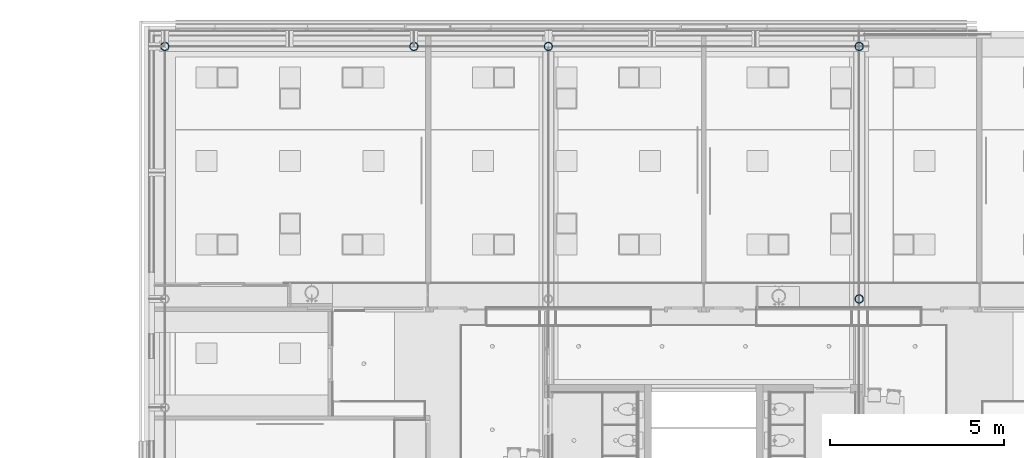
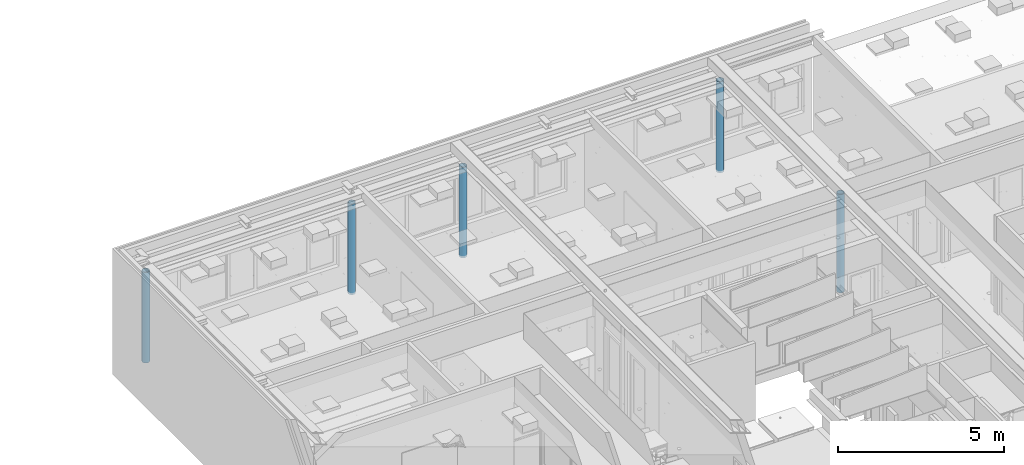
# One storey, part 13 of 260: 5 columns.
"""IFC2X3 building model written with IfcOpenShell, lengths in millimetres."""

from ifc_helpers import new_model, entity, si_unit, converted_unit, derived_unit, money_unit, direction, frame, origin_with_axes, place, context, subcontext, project, spatial, faceted_brep, material, type_object, element, save


model = new_model("IFC2X3")

# Units and contexts
model_context = context("Model", 3, precision=0.01, world=origin_with_axes(), true_north=direction((0.0, 1.0)))
plan_context = context("Plan", 3, precision=0.01, world=origin_with_axes(), true_north=direction((0.0, 1.0)))
body_context = subcontext(model_context, "Body", "Model", "MODEL_VIEW")
ifc_project = project(units=[si_unit("LENGTHUNIT", "METRE", prefix="MILLI"), si_unit("AREAUNIT", "SQUARE_METRE"), si_unit("VOLUMEUNIT", "CUBIC_METRE"), converted_unit("PLANEANGLEUNIT", "DEGREE", entity("IfcPlaneAngleMeasure", 0.0174532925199), si_unit("PLANEANGLEUNIT", "RADIAN"), dimensions=[0, 0, 0, 0, 0, 0, 0]), money_unit("EUR"), converted_unit("TIMEUNIT", "Year", entity("IfcTimeMeasure", 31556926.0), si_unit("TIMEUNIT", "SECOND"), dimensions=[0, 0, 1, 0, 0, 0, 0]), si_unit("MASSUNIT", "GRAM", prefix="KILO"), si_unit("THERMODYNAMICTEMPERATUREUNIT", "DEGREE_CELSIUS"), si_unit("LUMINOUSINTENSITYUNIT", "LUMEN"), si_unit("ENERGYUNIT", "JOULE", prefix="MEGA"), derived_unit("THERMALCONDUCTANCEUNIT", [(si_unit("POWERUNIT", "WATT"), 1), (si_unit("LENGTHUNIT", "METRE"), -1), (si_unit("THERMODYNAMICTEMPERATUREUNIT", "KELVIN"), -1)]), derived_unit("SPECIFICHEATCAPACITYUNIT", [(si_unit("ENERGYUNIT", "JOULE"), 1), (si_unit("MASSUNIT", "GRAM", prefix="KILO"), -1), (si_unit("THERMODYNAMICTEMPERATUREUNIT", "KELVIN"), -1)]), derived_unit("MASSDENSITYUNIT", [(si_unit("MASSUNIT", "GRAM", prefix="KILO"), 1), (si_unit("VOLUMEUNIT", "CUBIC_METRE"), -1)])], contexts=[model_context, plan_context])

# Site, building, storey
site_placement = place(None, origin_with_axes())
site = spatial("IfcSite", under=ifc_project, at=site_placement, Name="Site", CompositionType="ELEMENT")
building_placement = place(site_placement, origin_with_axes())
building = spatial("IfcBuilding", under=site, at=building_placement, Name="Naam gebouw", CompositionType="ELEMENT")
storey_placement = place(building_placement, frame((0.0, 0.0, 3960.0), z_axis=(0.0, 0.0, 1.0), x_axis=(1.0, 0.0, 0.0)))
storey = spatial("IfcBuildingStorey", under=building, at=storey_placement, Name="verdieping", CompositionType="ELEMENT", Elevation=3960.0)

# Columns
ifc_material = material(Name="Metaal - Staal C wit")
column_type = type_object("IfcColumnType", Name="Lucht D245", PredefinedType="COLUMN")
column_1_placement = place(storey_placement, frame((44545.0, 46586.9999775, -70.0), z_axis=(0.0, 0.0, 1.0), x_axis=(1.0, 0.0, 0.0)))
element("IfcColumn", 1, at=column_1_placement, inside=storey, type_object=column_type, material=ifc_material, Name="28_kolom ø 273mm", ObjectType="COLUMN", context=body_context, shape_type="Brep", body=[
    faceted_brep([(-122.25, 0.0, 0.0), (-119.184937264, -27.2031841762, 0.0), (-119.184937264, -27.2031841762, 3350.0), (-122.25, 0.0, 3350.0), (-119.184937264, 27.2031841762, 0.0), (-110.143444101, 53.0422871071, 0.0), (-95.5788987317, 76.2216282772, 0.0), (-76.2216282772, 95.5788987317, 0.0), (-53.0422871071, 110.143444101, 0.0), (-27.2031841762, 119.184937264, 0.0), (0.0, 122.25, 0.0), (27.2031841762, 119.184937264, 0.0), (53.0422871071, 110.143444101, 0.0), (76.2216282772, 95.5788987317, 0.0), (95.5788987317, 76.2216282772, 0.0), (110.143444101, 53.0422871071, 0.0), (119.184937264, 27.2031841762, 0.0), (122.25, 0.0, 0.0), (119.184937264, -27.2031841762, 0.0), (110.143444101, -53.0422871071, 0.0), (95.5788987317, -76.2216282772, 0.0), (76.2216282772, -95.5788987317, 0.0), (53.0422871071, -110.143444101, 0.0), (27.2031841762, -119.184937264, 0.0), (0.0, -122.25, 0.0), (-27.2031841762, -119.184937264, 0.0), (-53.0422871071, -110.143444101, 0.0), (-76.2216282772, -95.5788987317, 0.0), (-95.5788987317, -76.2216282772, 0.0), (-110.143444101, -53.0422871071, 0.0), (-106.25, 0.0, 0.0), (-102.629619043, -27.4995235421, 0.0), (-92.0151991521, -53.125, 0.0), (-75.1300955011, -75.1300955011, 0.0), (-53.125, -92.0151991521, 0.0), (-27.4995235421, -102.629619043, 0.0), (0.0, -106.25, 0.0), (27.4995235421, -102.629619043, 0.0), (53.125, -92.0151991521, 0.0), (75.1300955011, -75.1300955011, 0.0), (92.0151991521, -53.125, 0.0), (102.629619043, -27.4995235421, 0.0), (106.25, 0.0, 0.0), (102.629619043, 27.4995235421, 0.0), (92.0151991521, 53.125, 0.0), (75.1300955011, 75.1300955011, 0.0), (53.125, 92.0151991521, 0.0), (27.4995235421, 102.629619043, 0.0), (0.0, 106.25, 0.0), (-27.4995235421, 102.629619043, 0.0), (-53.125, 92.0151991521, 0.0), (-75.1300955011, 75.1300955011, 0.0), (-92.0151991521, 53.125, 0.0), (-102.629619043, 27.4995235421, 0.0), (-110.143444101, -53.0422871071, 3350.0), (-95.5788987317, -76.2216282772, 3350.0), (-76.2216282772, -95.5788987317, 3350.0), (-53.0422871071, -110.143444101, 3350.0), (-27.2031841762, -119.184937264, 3350.0), (0.0, -122.25, 3350.0), (27.2031841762, -119.184937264, 3350.0), (53.0422871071, -110.143444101, 3350.0), (76.2216282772, -95.5788987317, 3350.0), (95.5788987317, -76.2216282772, 3350.0), (110.143444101, -53.0422871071, 3350.0), (119.184937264, -27.2031841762, 3350.0), (122.25, 0.0, 3350.0), (119.184937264, 27.2031841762, 3350.0), (110.143444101, 53.0422871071, 3350.0), (95.5788987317, 76.2216282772, 3350.0), (76.2216282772, 95.5788987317, 3350.0), (53.0422871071, 110.143444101, 3350.0), (27.2031841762, 119.184937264, 3350.0), (0.0, 122.25, 3350.0), (-27.2031841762, 119.184937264, 3350.0), (-53.0422871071, 110.143444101, 3350.0), (-76.2216282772, 95.5788987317, 3350.0), (-95.5788987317, 76.2216282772, 3350.0), (-110.143444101, 53.0422871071, 3350.0), (-119.184937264, 27.2031841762, 3350.0), (-106.25, 0.0, 3350.0), (-102.629619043, 27.4995235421, 3350.0), (-92.0151991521, 53.125, 3350.0), (-75.1300955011, 75.1300955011, 3350.0), (-53.125, 92.0151991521, 3350.0), (-27.4995235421, 102.629619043, 3350.0), (0.0, 106.25, 3350.0), (27.4995235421, 102.629619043, 3350.0), (53.125, 92.0151991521, 3350.0), (75.1300955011, 75.1300955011, 3350.0), (92.0151991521, 53.125, 3350.0), (102.629619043, 27.4995235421, 3350.0), (106.25, 0.0, 3350.0), (102.629619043, -27.4995235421, 3350.0), (92.0151991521, -53.125, 3350.0), (75.1300955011, -75.1300955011, 3350.0), (53.125, -92.0151991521, 3350.0), (27.4995235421, -102.629619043, 3350.0), (0.0, -106.25, 3350.0), (-27.4995235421, -102.629619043, 3350.0), (-53.125, -92.0151991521, 3350.0), (-75.1300955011, -75.1300955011, 3350.0), (-92.0151991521, -53.125, 3350.0), (-102.629619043, -27.4995235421, 3350.0)], [[[0, 1, 2, 3]], [[0, 4, 5, 6, 7, 8, 9, 10, 11, 12, 13, 14, 15, 16, 17, 18, 19, 20, 21, 22, 23, 24, 25, 26, 27, 28, 29, 1], [30, 31, 32, 33, 34, 35, 36, 37, 38, 39, 40, 41, 42, 43, 44, 45, 46, 47, 48, 49, 50, 51, 52, 53]], [[1, 29, 54, 2]], [[3, 2, 54, 55, 56, 57, 58, 59, 60, 61, 62, 63, 64, 65, 66, 67, 68, 69, 70, 71, 72, 73, 74, 75, 76, 77, 78, 79], [80, 81, 82, 83, 84, 85, 86, 87, 88, 89, 90, 91, 92, 93, 94, 95, 96, 97, 98, 99, 100, 101, 102, 103]], [[4, 0, 3, 79]], [[5, 4, 79, 78]], [[6, 5, 78, 77]], [[7, 6, 77, 76]], [[8, 7, 76, 75]], [[9, 8, 75, 74]], [[10, 9, 74, 73]], [[11, 10, 73, 72]], [[12, 11, 72, 71]], [[13, 12, 71, 70]], [[14, 13, 70, 69]], [[15, 14, 69, 68]], [[16, 15, 68, 67]], [[17, 16, 67, 66]], [[18, 17, 66, 65]], [[19, 18, 65, 64]], [[20, 19, 64, 63]], [[21, 20, 63, 62]], [[22, 21, 62, 61]], [[23, 22, 61, 60]], [[24, 23, 60, 59]], [[25, 24, 59, 58]], [[26, 25, 58, 57]], [[27, 26, 57, 56]], [[28, 27, 56, 55]], [[29, 28, 55, 54]], [[31, 30, 80, 103]], [[32, 31, 103, 102]], [[33, 32, 102, 101]], [[34, 33, 101, 100]], [[35, 34, 100, 99]], [[36, 35, 99, 98]], [[37, 36, 98, 97]], [[38, 37, 97, 96]], [[39, 38, 96, 95]], [[40, 39, 95, 94]], [[41, 40, 94, 93]], [[42, 41, 93, 92]], [[43, 42, 92, 91]], [[44, 43, 91, 90]], [[45, 44, 90, 89]], [[46, 45, 89, 88]], [[47, 46, 88, 87]], [[48, 47, 87, 86]], [[49, 48, 86, 85]], [[50, 49, 85, 84]], [[51, 50, 84, 83]], [[52, 51, 83, 82]], [[53, 52, 82, 81]], [[30, 53, 81, 80]]]),
])
column_2_placement = place(storey_placement, frame((44545.0, 39325.0, -80.0), z_axis=(0.0, 0.0, 1.0), x_axis=(1.0, 0.0, 0.0)))
element("IfcColumn", 2, at=column_2_placement, inside=storey, type_object=column_type, material=ifc_material, Name="28_kolom ø 273mm", ObjectType="COLUMN", context=body_context, shape_type="Brep", body=[
    faceted_brep([(119.184937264, 27.2031841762, 0.0), (110.143444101, 53.0422871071, 0.0), (110.143444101, 53.0422871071, 3620.0), (119.184937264, 27.2031841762, 3620.0), (122.25, 0.0, 0.0), (119.184937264, -27.2031841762, 0.0), (110.143444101, -53.0422871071, 0.0), (95.5788987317, -76.2216282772, 0.0), (76.2216282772, -95.5788987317, 0.0), (53.0422871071, -110.143444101, 0.0), (27.2031841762, -119.184937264, 0.0), (0.0, -122.25, 0.0), (-27.2031841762, -119.184937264, 0.0), (-53.0422871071, -110.143444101, 0.0), (-76.2216282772, -95.5788987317, 0.0), (-95.5788987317, -76.2216282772, 0.0), (-110.143444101, -53.0422871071, 0.0), (-119.184937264, -27.2031841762, 0.0), (-122.25, 0.0, 0.0), (-119.184937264, 27.2031841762, 0.0), (-110.143444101, 53.0422871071, 0.0), (-95.5788987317, 76.2216282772, 0.0), (-76.2216282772, 95.5788987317, 0.0), (-53.0422871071, 110.143444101, 0.0), (-27.2031841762, 119.184937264, 0.0), (0.0, 122.25, 0.0), (27.2031841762, 119.184937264, 0.0), (53.0422871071, 110.143444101, 0.0), (76.2216282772, 95.5788987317, 0.0), (95.5788987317, 76.2216282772, 0.0), (102.629619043, -27.4995235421, 0.0), (106.25, 0.0, 0.0), (102.629619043, 27.4995235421, 0.0), (92.0151991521, 53.125, 0.0), (75.1300955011, 75.1300955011, 0.0), (53.125, 92.0151991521, 0.0), (27.4995235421, 102.629619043, 0.0), (0.0, 106.25, 0.0), (-27.4995235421, 102.629619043, 0.0), (-53.125, 92.0151991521, 0.0), (-75.1300955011, 75.1300955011, 0.0), (-92.0151991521, 53.125, 0.0), (-102.629619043, 27.4995235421, 0.0), (-106.25, 0.0, 0.0), (-102.629619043, -27.4995235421, 0.0), (-92.0151991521, -53.125, 0.0), (-75.1300955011, -75.1300955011, 0.0), (-53.125, -92.0151991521, 0.0), (-27.4995235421, -102.629619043, 0.0), (0.0, -106.25, 0.0), (27.4995235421, -102.629619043, 0.0), (53.125, -92.0151991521, 0.0), (75.1300955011, -75.1300955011, 0.0), (92.0151991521, -53.125, 0.0), (95.5788987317, 76.2216282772, 3620.0), (76.2216282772, 95.5788987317, 3620.0), (53.0422871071, 110.143444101, 3620.0), (27.2031841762, 119.184937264, 3620.0), (0.0, 122.25, 3620.0), (-27.2031841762, 119.184937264, 3620.0), (-53.0422871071, 110.143444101, 3620.0), (-76.2216282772, 95.5788987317, 3620.0), (-95.5788987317, 76.2216282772, 3620.0), (-110.143444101, 53.0422871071, 3620.0), (-119.184937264, 27.2031841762, 3620.0), (-122.25, 0.0, 3620.0), (-119.184937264, -27.2031841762, 3620.0), (-110.143444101, -53.0422871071, 3620.0), (-95.5788987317, -76.2216282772, 3620.0), (-76.2216282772, -95.5788987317, 3620.0), (-53.0422871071, -110.143444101, 3620.0), (-27.2031841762, -119.184937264, 3620.0), (0.0, -122.25, 3620.0), (27.2031841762, -119.184937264, 3620.0), (53.0422871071, -110.143444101, 3620.0), (76.2216282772, -95.5788987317, 3620.0), (95.5788987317, -76.2216282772, 3620.0), (110.143444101, -53.0422871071, 3620.0), (119.184937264, -27.2031841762, 3620.0), (122.25, 0.0, 3620.0), (102.629619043, -27.4995235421, 3620.0), (92.0151991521, -53.125, 3620.0), (75.1300955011, -75.1300955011, 3620.0), (53.125, -92.0151991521, 3620.0), (27.4995235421, -102.629619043, 3620.0), (0.0, -106.25, 3620.0), (-27.4995235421, -102.629619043, 3620.0), (-53.125, -92.0151991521, 3620.0), (-75.1300955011, -75.1300955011, 3620.0), (-92.0151991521, -53.125, 3620.0), (-102.629619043, -27.4995235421, 3620.0), (-106.25, 0.0, 3620.0), (-102.629619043, 27.4995235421, 3620.0), (-92.0151991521, 53.125, 3620.0), (-75.1300955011, 75.1300955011, 3620.0), (-53.125, 92.0151991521, 3620.0), (-27.4995235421, 102.629619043, 3620.0), (0.0, 106.25, 3620.0), (27.4995235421, 102.629619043, 3620.0), (53.125, 92.0151991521, 3620.0), (75.1300955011, 75.1300955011, 3620.0), (92.0151991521, 53.125, 3620.0), (102.629619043, 27.4995235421, 3620.0), (106.25, 0.0, 3620.0)], [[[0, 1, 2, 3]], [[0, 4, 5, 6, 7, 8, 9, 10, 11, 12, 13, 14, 15, 16, 17, 18, 19, 20, 21, 22, 23, 24, 25, 26, 27, 28, 29, 1], [30, 31, 32, 33, 34, 35, 36, 37, 38, 39, 40, 41, 42, 43, 44, 45, 46, 47, 48, 49, 50, 51, 52, 53]], [[1, 29, 54, 2]], [[3, 2, 54, 55, 56, 57, 58, 59, 60, 61, 62, 63, 64, 65, 66, 67, 68, 69, 70, 71, 72, 73, 74, 75, 76, 77, 78, 79], [80, 81, 82, 83, 84, 85, 86, 87, 88, 89, 90, 91, 92, 93, 94, 95, 96, 97, 98, 99, 100, 101, 102, 103]], [[4, 0, 3, 79]], [[5, 4, 79, 78]], [[6, 5, 78, 77]], [[7, 6, 77, 76]], [[8, 7, 76, 75]], [[9, 8, 75, 74]], [[10, 9, 74, 73]], [[11, 10, 73, 72]], [[12, 11, 72, 71]], [[13, 12, 71, 70]], [[14, 13, 70, 69]], [[15, 14, 69, 68]], [[16, 15, 68, 67]], [[17, 16, 67, 66]], [[18, 17, 66, 65]], [[19, 18, 65, 64]], [[20, 19, 64, 63]], [[21, 20, 63, 62]], [[22, 21, 62, 61]], [[23, 22, 61, 60]], [[24, 23, 60, 59]], [[25, 24, 59, 58]], [[26, 25, 58, 57]], [[27, 26, 57, 56]], [[28, 27, 56, 55]], [[29, 28, 55, 54]], [[31, 30, 80, 103]], [[32, 31, 103, 102]], [[33, 32, 102, 101]], [[34, 33, 101, 100]], [[35, 34, 100, 99]], [[36, 35, 99, 98]], [[37, 36, 98, 97]], [[38, 37, 97, 96]], [[39, 38, 96, 95]], [[40, 39, 95, 94]], [[41, 40, 94, 93]], [[42, 41, 93, 92]], [[43, 42, 92, 91]], [[44, 43, 91, 90]], [[45, 44, 90, 89]], [[46, 45, 89, 88]], [[47, 46, 88, 87]], [[48, 47, 87, 86]], [[49, 48, 86, 85]], [[50, 49, 85, 84]], [[51, 50, 84, 83]], [[52, 51, 83, 82]], [[53, 52, 82, 81]], [[30, 53, 81, 80]]]),
])
column_3_placement = place(storey_placement, frame((24575.0, 46586.9999775, -70.0), z_axis=(0.0, 0.0, 1.0), x_axis=(1.0, 0.0, 0.0)))
element("IfcColumn", 3, at=column_3_placement, inside=storey, type_object=column_type, material=ifc_material, Name="28_kolom ø 273mm", ObjectType="COLUMN", context=body_context, shape_type="Brep", body=[
    faceted_brep([(-122.25, 0.0, 0.0), (-119.184937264, -27.2031841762, 0.0), (-119.184937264, -27.2031841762, 3330.0), (-122.25, 0.0, 3330.0), (-119.184937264, 27.2031841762, 0.0), (-110.143444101, 53.0422871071, 0.0), (-95.5788987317, 76.2216282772, 0.0), (-76.2216282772, 95.5788987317, 0.0), (-53.0422871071, 110.143444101, 0.0), (-27.2031841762, 119.184937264, 0.0), (0.0, 122.25, 0.0), (27.2031841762, 119.184937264, 0.0), (53.0422871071, 110.143444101, 0.0), (76.2216282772, 95.5788987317, 0.0), (95.5788987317, 76.2216282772, 0.0), (110.143444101, 53.0422871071, 0.0), (119.184937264, 27.2031841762, 0.0), (122.25, 0.0, 0.0), (119.184937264, -27.2031841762, 0.0), (110.143444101, -53.0422871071, 0.0), (95.5788987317, -76.2216282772, 0.0), (76.2216282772, -95.5788987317, 0.0), (53.0422871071, -110.143444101, 0.0), (27.2031841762, -119.184937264, 0.0), (0.0, -122.25, 0.0), (-27.2031841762, -119.184937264, 0.0), (-53.0422871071, -110.143444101, 0.0), (-76.2216282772, -95.5788987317, 0.0), (-95.5788987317, -76.2216282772, 0.0), (-110.143444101, -53.0422871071, 0.0), (-106.25, 0.0, 0.0), (-102.629619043, -27.4995235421, 0.0), (-92.0151991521, -53.125, 0.0), (-75.1300955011, -75.1300955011, 0.0), (-53.125, -92.0151991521, 0.0), (-27.4995235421, -102.629619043, 0.0), (0.0, -106.25, 0.0), (27.4995235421, -102.629619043, 0.0), (53.125, -92.0151991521, 0.0), (75.1300955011, -75.1300955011, 0.0), (92.0151991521, -53.125, 0.0), (102.629619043, -27.4995235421, 0.0), (106.25, 0.0, 0.0), (102.629619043, 27.4995235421, 0.0), (92.0151991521, 53.125, 0.0), (75.1300955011, 75.1300955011, 0.0), (53.125, 92.0151991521, 0.0), (27.4995235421, 102.629619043, 0.0), (0.0, 106.25, 0.0), (-27.4995235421, 102.629619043, 0.0), (-53.125, 92.0151991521, 0.0), (-75.1300955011, 75.1300955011, 0.0), (-92.0151991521, 53.125, 0.0), (-102.629619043, 27.4995235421, 0.0), (-110.143444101, -53.0422871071, 3330.0), (-95.5788987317, -76.2216282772, 3330.0), (-76.2216282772, -95.5788987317, 3330.0), (-53.0422871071, -110.143444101, 3330.0), (-27.2031841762, -119.184937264, 3330.0), (0.0, -122.25, 3330.0), (27.2031841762, -119.184937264, 3330.0), (53.0422871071, -110.143444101, 3330.0), (76.2216282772, -95.5788987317, 3330.0), (95.5788987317, -76.2216282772, 3330.0), (110.143444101, -53.0422871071, 3330.0), (119.184937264, -27.2031841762, 3330.0), (122.25, 0.0, 3330.0), (119.184937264, 27.2031841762, 3330.0), (110.143444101, 53.0422871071, 3330.0), (95.5788987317, 76.2216282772, 3330.0), (76.2216282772, 95.5788987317, 3330.0), (53.0422871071, 110.143444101, 3330.0), (27.2031841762, 119.184937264, 3330.0), (0.0, 122.25, 3330.0), (-27.2031841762, 119.184937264, 3330.0), (-53.0422871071, 110.143444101, 3330.0), (-76.2216282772, 95.5788987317, 3330.0), (-95.5788987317, 76.2216282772, 3330.0), (-110.143444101, 53.0422871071, 3330.0), (-119.184937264, 27.2031841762, 3330.0), (-106.25, 0.0, 3330.0), (-102.629619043, 27.4995235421, 3330.0), (-92.0151991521, 53.125, 3330.0), (-75.1300955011, 75.1300955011, 3330.0), (-53.125, 92.0151991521, 3330.0), (-27.4995235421, 102.629619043, 3330.0), (0.0, 106.25, 3330.0), (27.4995235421, 102.629619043, 3330.0), (53.125, 92.0151991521, 3330.0), (75.1300955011, 75.1300955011, 3330.0), (92.0151991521, 53.125, 3330.0), (102.629619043, 27.4995235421, 3330.0), (106.25, 0.0, 3330.0), (102.629619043, -27.4995235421, 3330.0), (92.0151991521, -53.125, 3330.0), (75.1300955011, -75.1300955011, 3330.0), (53.125, -92.0151991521, 3330.0), (27.4995235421, -102.629619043, 3330.0), (0.0, -106.25, 3330.0), (-27.4995235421, -102.629619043, 3330.0), (-53.125, -92.0151991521, 3330.0), (-75.1300955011, -75.1300955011, 3330.0), (-92.0151991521, -53.125, 3330.0), (-102.629619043, -27.4995235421, 3330.0)], [[[0, 1, 2, 3]], [[0, 4, 5, 6, 7, 8, 9, 10, 11, 12, 13, 14, 15, 16, 17, 18, 19, 20, 21, 22, 23, 24, 25, 26, 27, 28, 29, 1], [30, 31, 32, 33, 34, 35, 36, 37, 38, 39, 40, 41, 42, 43, 44, 45, 46, 47, 48, 49, 50, 51, 52, 53]], [[1, 29, 54, 2]], [[3, 2, 54, 55, 56, 57, 58, 59, 60, 61, 62, 63, 64, 65, 66, 67, 68, 69, 70, 71, 72, 73, 74, 75, 76, 77, 78, 79], [80, 81, 82, 83, 84, 85, 86, 87, 88, 89, 90, 91, 92, 93, 94, 95, 96, 97, 98, 99, 100, 101, 102, 103]], [[4, 0, 3, 79]], [[5, 4, 79, 78]], [[6, 5, 78, 77]], [[7, 6, 77, 76]], [[8, 7, 76, 75]], [[9, 8, 75, 74]], [[10, 9, 74, 73]], [[11, 10, 73, 72]], [[12, 11, 72, 71]], [[13, 12, 71, 70]], [[14, 13, 70, 69]], [[15, 14, 69, 68]], [[16, 15, 68, 67]], [[17, 16, 67, 66]], [[18, 17, 66, 65]], [[19, 18, 65, 64]], [[20, 19, 64, 63]], [[21, 20, 63, 62]], [[22, 21, 62, 61]], [[23, 22, 61, 60]], [[24, 23, 60, 59]], [[25, 24, 59, 58]], [[26, 25, 58, 57]], [[27, 26, 57, 56]], [[28, 27, 56, 55]], [[29, 28, 55, 54]], [[31, 30, 80, 103]], [[32, 31, 103, 102]], [[33, 32, 102, 101]], [[34, 33, 101, 100]], [[35, 34, 100, 99]], [[36, 35, 99, 98]], [[37, 36, 98, 97]], [[38, 37, 97, 96]], [[39, 38, 96, 95]], [[40, 39, 95, 94]], [[41, 40, 94, 93]], [[42, 41, 93, 92]], [[43, 42, 92, 91]], [[44, 43, 91, 90]], [[45, 44, 90, 89]], [[46, 45, 89, 88]], [[47, 46, 88, 87]], [[48, 47, 87, 86]], [[49, 48, 86, 85]], [[50, 49, 85, 84]], [[51, 50, 84, 83]], [[52, 51, 83, 82]], [[53, 52, 82, 81]], [[30, 53, 81, 80]]]),
])
column_4_placement = place(storey_placement, frame((31737.5, 46586.9999775, -70.0), z_axis=(0.0, 0.0, 1.0), x_axis=(1.0, 0.0, 0.0)))
element("IfcColumn", 4, at=column_4_placement, inside=storey, type_object=column_type, material=ifc_material, Name="28_kolom ø 273mm", ObjectType="COLUMN", context=body_context, shape_type="Brep", body=[
    faceted_brep([(-122.25, 0.0, 0.0), (-119.184937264, -27.2031841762, 0.0), (-119.184937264, -27.2031841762, 3330.0), (-122.25, 0.0, 3330.0), (-119.184937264, 27.2031841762, 0.0), (-110.143444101, 53.0422871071, 0.0), (-95.5788987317, 76.2216282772, 0.0), (-76.2216282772, 95.5788987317, 0.0), (-53.0422871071, 110.143444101, 0.0), (-27.2031841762, 119.184937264, 0.0), (0.0, 122.25, 0.0), (27.2031841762, 119.184937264, 0.0), (53.0422871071, 110.143444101, 0.0), (76.2216282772, 95.5788987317, 0.0), (95.5788987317, 76.2216282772, 0.0), (110.143444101, 53.0422871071, 0.0), (119.184937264, 27.2031841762, 0.0), (122.25, 0.0, 0.0), (119.184937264, -27.2031841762, 0.0), (110.143444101, -53.0422871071, 0.0), (95.5788987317, -76.2216282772, 0.0), (76.2216282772, -95.5788987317, 0.0), (53.0422871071, -110.143444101, 0.0), (27.2031841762, -119.184937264, 0.0), (0.0, -122.25, 0.0), (-27.2031841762, -119.184937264, 0.0), (-53.0422871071, -110.143444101, 0.0), (-76.2216282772, -95.5788987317, 0.0), (-95.5788987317, -76.2216282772, 0.0), (-110.143444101, -53.0422871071, 0.0), (-106.25, 0.0, 0.0), (-102.629619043, -27.4995235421, 0.0), (-92.0151991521, -53.125, 0.0), (-75.1300955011, -75.1300955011, 0.0), (-53.125, -92.0151991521, 0.0), (-27.4995235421, -102.629619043, 0.0), (0.0, -106.25, 0.0), (27.4995235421, -102.629619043, 0.0), (53.125, -92.0151991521, 0.0), (75.1300955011, -75.1300955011, 0.0), (92.0151991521, -53.125, 0.0), (102.629619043, -27.4995235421, 0.0), (106.25, 0.0, 0.0), (102.629619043, 27.4995235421, 0.0), (92.0151991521, 53.125, 0.0), (75.1300955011, 75.1300955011, 0.0), (53.125, 92.0151991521, 0.0), (27.4995235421, 102.629619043, 0.0), (0.0, 106.25, 0.0), (-27.4995235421, 102.629619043, 0.0), (-53.125, 92.0151991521, 0.0), (-75.1300955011, 75.1300955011, 0.0), (-92.0151991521, 53.125, 0.0), (-102.629619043, 27.4995235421, 0.0), (-110.143444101, -53.0422871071, 3330.0), (-95.5788987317, -76.2216282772, 3330.0), (-76.2216282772, -95.5788987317, 3330.0), (-53.0422871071, -110.143444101, 3330.0), (-27.2031841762, -119.184937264, 3330.0), (0.0, -122.25, 3330.0), (27.2031841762, -119.184937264, 3330.0), (53.0422871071, -110.143444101, 3330.0), (76.2216282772, -95.5788987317, 3330.0), (95.5788987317, -76.2216282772, 3330.0), (110.143444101, -53.0422871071, 3330.0), (119.184937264, -27.2031841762, 3330.0), (122.25, 0.0, 3330.0), (119.184937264, 27.2031841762, 3330.0), (110.143444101, 53.0422871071, 3330.0), (95.5788987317, 76.2216282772, 3330.0), (76.2216282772, 95.5788987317, 3330.0), (53.0422871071, 110.143444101, 3330.0), (27.2031841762, 119.184937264, 3330.0), (0.0, 122.25, 3330.0), (-27.2031841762, 119.184937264, 3330.0), (-53.0422871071, 110.143444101, 3330.0), (-76.2216282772, 95.5788987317, 3330.0), (-95.5788987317, 76.2216282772, 3330.0), (-110.143444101, 53.0422871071, 3330.0), (-119.184937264, 27.2031841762, 3330.0), (-106.25, 0.0, 3330.0), (-102.629619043, 27.4995235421, 3330.0), (-92.0151991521, 53.125, 3330.0), (-75.1300955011, 75.1300955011, 3330.0), (-53.125, 92.0151991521, 3330.0), (-27.4995235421, 102.629619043, 3330.0), (0.0, 106.25, 3330.0), (27.4995235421, 102.629619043, 3330.0), (53.125, 92.0151991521, 3330.0), (75.1300955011, 75.1300955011, 3330.0), (92.0151991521, 53.125, 3330.0), (102.629619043, 27.4995235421, 3330.0), (106.25, 0.0, 3330.0), (102.629619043, -27.4995235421, 3330.0), (92.0151991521, -53.125, 3330.0), (75.1300955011, -75.1300955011, 3330.0), (53.125, -92.0151991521, 3330.0), (27.4995235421, -102.629619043, 3330.0), (0.0, -106.25, 3330.0), (-27.4995235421, -102.629619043, 3330.0), (-53.125, -92.0151991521, 3330.0), (-75.1300955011, -75.1300955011, 3330.0), (-92.0151991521, -53.125, 3330.0), (-102.629619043, -27.4995235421, 3330.0)], [[[0, 1, 2, 3]], [[0, 4, 5, 6, 7, 8, 9, 10, 11, 12, 13, 14, 15, 16, 17, 18, 19, 20, 21, 22, 23, 24, 25, 26, 27, 28, 29, 1], [30, 31, 32, 33, 34, 35, 36, 37, 38, 39, 40, 41, 42, 43, 44, 45, 46, 47, 48, 49, 50, 51, 52, 53]], [[1, 29, 54, 2]], [[3, 2, 54, 55, 56, 57, 58, 59, 60, 61, 62, 63, 64, 65, 66, 67, 68, 69, 70, 71, 72, 73, 74, 75, 76, 77, 78, 79], [80, 81, 82, 83, 84, 85, 86, 87, 88, 89, 90, 91, 92, 93, 94, 95, 96, 97, 98, 99, 100, 101, 102, 103]], [[4, 0, 3, 79]], [[5, 4, 79, 78]], [[6, 5, 78, 77]], [[7, 6, 77, 76]], [[8, 7, 76, 75]], [[9, 8, 75, 74]], [[10, 9, 74, 73]], [[11, 10, 73, 72]], [[12, 11, 72, 71]], [[13, 12, 71, 70]], [[14, 13, 70, 69]], [[15, 14, 69, 68]], [[16, 15, 68, 67]], [[17, 16, 67, 66]], [[18, 17, 66, 65]], [[19, 18, 65, 64]], [[20, 19, 64, 63]], [[21, 20, 63, 62]], [[22, 21, 62, 61]], [[23, 22, 61, 60]], [[24, 23, 60, 59]], [[25, 24, 59, 58]], [[26, 25, 58, 57]], [[27, 26, 57, 56]], [[28, 27, 56, 55]], [[29, 28, 55, 54]], [[31, 30, 80, 103]], [[32, 31, 103, 102]], [[33, 32, 102, 101]], [[34, 33, 101, 100]], [[35, 34, 100, 99]], [[36, 35, 99, 98]], [[37, 36, 98, 97]], [[38, 37, 97, 96]], [[39, 38, 96, 95]], [[40, 39, 95, 94]], [[41, 40, 94, 93]], [[42, 41, 93, 92]], [[43, 42, 92, 91]], [[44, 43, 91, 90]], [[45, 44, 90, 89]], [[46, 45, 89, 88]], [[47, 46, 88, 87]], [[48, 47, 87, 86]], [[49, 48, 86, 85]], [[50, 49, 85, 84]], [[51, 50, 84, 83]], [[52, 51, 83, 82]], [[53, 52, 82, 81]], [[30, 53, 81, 80]]]),
])
column_5_placement = place(storey_placement, frame((35605.0, 46586.9999775, -70.0), z_axis=(0.0, 0.0, 1.0), x_axis=(1.0, 0.0, 0.0)))
element("IfcColumn", 5, at=column_5_placement, inside=storey, type_object=column_type, material=ifc_material, Name="28_kolom ø 273mm", ObjectType="COLUMN", context=body_context, shape_type="Brep", body=[
    faceted_brep([(-122.25, 0.0, 0.0), (-119.184937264, -27.2031841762, 0.0), (-119.184937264, -27.2031841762, 3330.0), (-122.25, 0.0, 3330.0), (-119.184937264, 27.2031841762, 0.0), (-110.143444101, 53.0422871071, 0.0), (-95.5788987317, 76.2216282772, 0.0), (-76.2216282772, 95.5788987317, 0.0), (-53.0422871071, 110.143444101, 0.0), (-27.2031841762, 119.184937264, 0.0), (0.0, 122.25, 0.0), (27.2031841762, 119.184937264, 0.0), (53.0422871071, 110.143444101, 0.0), (76.2216282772, 95.5788987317, 0.0), (95.5788987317, 76.2216282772, 0.0), (110.143444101, 53.0422871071, 0.0), (119.184937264, 27.2031841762, 0.0), (122.25, 0.0, 0.0), (119.184937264, -27.2031841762, 0.0), (110.143444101, -53.0422871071, 0.0), (95.5788987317, -76.2216282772, 0.0), (76.2216282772, -95.5788987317, 0.0), (53.0422871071, -110.143444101, 0.0), (27.2031841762, -119.184937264, 0.0), (0.0, -122.25, 0.0), (-27.2031841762, -119.184937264, 0.0), (-53.0422871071, -110.143444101, 0.0), (-76.2216282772, -95.5788987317, 0.0), (-95.5788987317, -76.2216282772, 0.0), (-110.143444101, -53.0422871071, 0.0), (-106.25, 0.0, 0.0), (-102.629619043, -27.4995235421, 0.0), (-92.0151991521, -53.125, 0.0), (-75.1300955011, -75.1300955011, 0.0), (-53.125, -92.0151991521, 0.0), (-27.4995235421, -102.629619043, 0.0), (0.0, -106.25, 0.0), (27.4995235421, -102.629619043, 0.0), (53.125, -92.0151991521, 0.0), (75.1300955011, -75.1300955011, 0.0), (92.0151991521, -53.125, 0.0), (102.629619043, -27.4995235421, 0.0), (106.25, 0.0, 0.0), (102.629619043, 27.4995235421, 0.0), (92.0151991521, 53.125, 0.0), (75.1300955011, 75.1300955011, 0.0), (53.125, 92.0151991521, 0.0), (27.4995235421, 102.629619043, 0.0), (0.0, 106.25, 0.0), (-27.4995235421, 102.629619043, 0.0), (-53.125, 92.0151991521, 0.0), (-75.1300955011, 75.1300955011, 0.0), (-92.0151991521, 53.125, 0.0), (-102.629619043, 27.4995235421, 0.0), (-110.143444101, -53.0422871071, 3330.0), (-95.5788987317, -76.2216282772, 3330.0), (-76.2216282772, -95.5788987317, 3330.0), (-53.0422871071, -110.143444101, 3330.0), (-27.2031841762, -119.184937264, 3330.0), (0.0, -122.25, 3330.0), (27.2031841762, -119.184937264, 3330.0), (53.0422871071, -110.143444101, 3330.0), (76.2216282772, -95.5788987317, 3330.0), (95.5788987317, -76.2216282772, 3330.0), (110.143444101, -53.0422871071, 3330.0), (119.184937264, -27.2031841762, 3330.0), (122.25, 0.0, 3330.0), (119.184937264, 27.2031841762, 3330.0), (110.143444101, 53.0422871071, 3330.0), (95.5788987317, 76.2216282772, 3330.0), (76.2216282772, 95.5788987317, 3330.0), (53.0422871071, 110.143444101, 3330.0), (27.2031841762, 119.184937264, 3330.0), (0.0, 122.25, 3330.0), (-27.2031841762, 119.184937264, 3330.0), (-53.0422871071, 110.143444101, 3330.0), (-76.2216282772, 95.5788987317, 3330.0), (-95.5788987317, 76.2216282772, 3330.0), (-110.143444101, 53.0422871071, 3330.0), (-119.184937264, 27.2031841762, 3330.0), (-106.25, 0.0, 3330.0), (-102.629619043, 27.4995235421, 3330.0), (-92.0151991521, 53.125, 3330.0), (-75.1300955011, 75.1300955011, 3330.0), (-53.125, 92.0151991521, 3330.0), (-27.4995235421, 102.629619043, 3330.0), (0.0, 106.25, 3330.0), (27.4995235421, 102.629619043, 3330.0), (53.125, 92.0151991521, 3330.0), (75.1300955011, 75.1300955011, 3330.0), (92.0151991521, 53.125, 3330.0), (102.629619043, 27.4995235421, 3330.0), (106.25, 0.0, 3330.0), (102.629619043, -27.4995235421, 3330.0), (92.0151991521, -53.125, 3330.0), (75.1300955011, -75.1300955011, 3330.0), (53.125, -92.0151991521, 3330.0), (27.4995235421, -102.629619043, 3330.0), (0.0, -106.25, 3330.0), (-27.4995235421, -102.629619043, 3330.0), (-53.125, -92.0151991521, 3330.0), (-75.1300955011, -75.1300955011, 3330.0), (-92.0151991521, -53.125, 3330.0), (-102.629619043, -27.4995235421, 3330.0)], [[[0, 1, 2, 3]], [[0, 4, 5, 6, 7, 8, 9, 10, 11, 12, 13, 14, 15, 16, 17, 18, 19, 20, 21, 22, 23, 24, 25, 26, 27, 28, 29, 1], [30, 31, 32, 33, 34, 35, 36, 37, 38, 39, 40, 41, 42, 43, 44, 45, 46, 47, 48, 49, 50, 51, 52, 53]], [[1, 29, 54, 2]], [[3, 2, 54, 55, 56, 57, 58, 59, 60, 61, 62, 63, 64, 65, 66, 67, 68, 69, 70, 71, 72, 73, 74, 75, 76, 77, 78, 79], [80, 81, 82, 83, 84, 85, 86, 87, 88, 89, 90, 91, 92, 93, 94, 95, 96, 97, 98, 99, 100, 101, 102, 103]], [[4, 0, 3, 79]], [[5, 4, 79, 78]], [[6, 5, 78, 77]], [[7, 6, 77, 76]], [[8, 7, 76, 75]], [[9, 8, 75, 74]], [[10, 9, 74, 73]], [[11, 10, 73, 72]], [[12, 11, 72, 71]], [[13, 12, 71, 70]], [[14, 13, 70, 69]], [[15, 14, 69, 68]], [[16, 15, 68, 67]], [[17, 16, 67, 66]], [[18, 17, 66, 65]], [[19, 18, 65, 64]], [[20, 19, 64, 63]], [[21, 20, 63, 62]], [[22, 21, 62, 61]], [[23, 22, 61, 60]], [[24, 23, 60, 59]], [[25, 24, 59, 58]], [[26, 25, 58, 57]], [[27, 26, 57, 56]], [[28, 27, 56, 55]], [[29, 28, 55, 54]], [[31, 30, 80, 103]], [[32, 31, 103, 102]], [[33, 32, 102, 101]], [[34, 33, 101, 100]], [[35, 34, 100, 99]], [[36, 35, 99, 98]], [[37, 36, 98, 97]], [[38, 37, 97, 96]], [[39, 38, 96, 95]], [[40, 39, 95, 94]], [[41, 40, 94, 93]], [[42, 41, 93, 92]], [[43, 42, 92, 91]], [[44, 43, 91, 90]], [[45, 44, 90, 89]], [[46, 45, 89, 88]], [[47, 46, 88, 87]], [[48, 47, 87, 86]], [[49, 48, 86, 85]], [[50, 49, 85, 84]], [[51, 50, 84, 83]], [[52, 51, 83, 82]], [[53, 52, 82, 81]], [[30, 53, 81, 80]]]),
])

save(model, "model.ifc")
